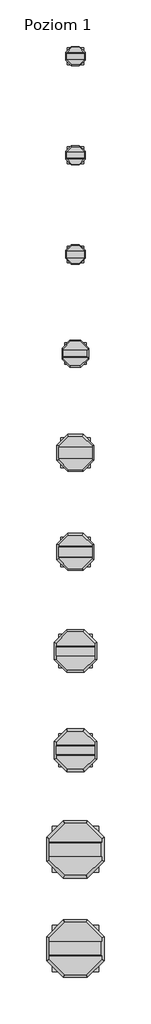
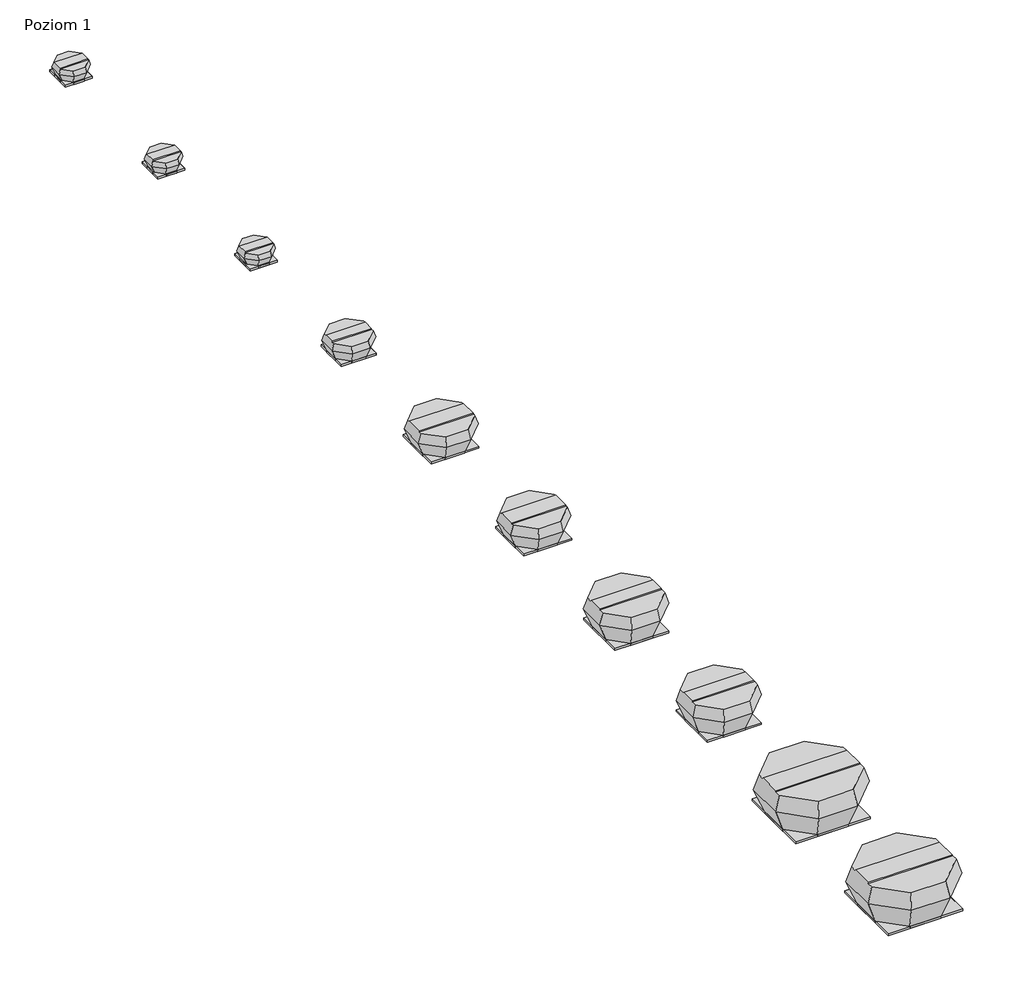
# One storey: 10 duct fittings, 10 unitary equipment elements.
"""IFC4 building model written with IfcOpenShell, lengths in millimetres."""

from ifc_helpers import new_model, si_unit, origin, place, context, project, spatial, transform, mapped, element, save
from components import duct_fitting_180_5dd8c60e, duct_fitting_250_9d40ecca, duct_fitting_400_42e1e227, duct_fitting_560_c8fad201, unitary_equipment_1b8540bf, unitary_equipment_1564ad7d, unitary_equipment_bfcc23b5, unitary_equipment_118d1ad5, unitary_equipment_f340779e, unitary_equipment_924398ab, unitary_equipment_9f07731e, unitary_equipment_d791638a, unitary_equipment_ef6876c5

model = new_model("IFC4")

# Units and contexts
model_context = context("Model", 3, world=origin())
ifc_project = project(units=[si_unit("LENGTHUNIT", "METRE", prefix="MILLI")], contexts=[model_context])

# Site, building, storey
site = spatial("IfcSite", under=ifc_project)
building = spatial("IfcBuilding", under=site)
storey = spatial("IfcBuildingStorey", under=building, Name="Poziom 1", Elevation=0.0)

# Duct fittings
placement = place(None, origin())
duct_fitting_180_shape = duct_fitting_180_5dd8c60e(model_context)
element("IfcDuctFitting", 1, ObjectType="VE-Zagnieżdżone-Akcesorium-ParaForma-Harmann-DAF-Króciec_Przyłączeniowy : 180", at=placement, inside=storey, context=model_context, shape_type="MappedRepresentation", body=[
    mapped(duct_fitting_180_shape, transform((4582.5, 1000.0, 0.0), x_axis=(1.0, 0.0, 0.0), y_axis=(0.0, 1.0, 0.0), z_axis=(0.0, 0.0, 1.0))),
])
element("IfcDuctFitting", 2, ObjectType="VE-Zagnieżdżone-Akcesorium-ParaForma-Harmann-DAF-Króciec_Przyłączeniowy : 180", at=placement, inside=storey, context=model_context, shape_type="MappedRepresentation", body=[
    mapped(duct_fitting_180_shape, transform((4582.5, 3000.0, 0.0), x_axis=(1.0, 0.0, 0.0), y_axis=(0.0, 1.0, 0.0), z_axis=(0.0, 0.0, 1.0))),
])
element("IfcDuctFitting", 3, ObjectType="VE-Zagnieżdżone-Akcesorium-ParaForma-Harmann-DAF-Króciec_Przyłączeniowy : 180", at=placement, inside=storey, context=model_context, shape_type="MappedRepresentation", body=[
    mapped(duct_fitting_180_shape, transform((4582.5, 5000.0, 0.0), x_axis=(1.0, 0.0, 0.0), y_axis=(0.0, 1.0, 0.0), z_axis=(0.0, 0.0, 1.0))),
])
duct_fitting_250_shape = duct_fitting_250_9d40ecca(model_context)
element("IfcDuctFitting", 4, ObjectType="VE-Zagnieżdżone-Akcesorium-ParaForma-Harmann-DAF-Króciec_Przyłączeniowy : 250", at=placement, inside=storey, context=model_context, shape_type="MappedRepresentation", body=[
    mapped(duct_fitting_250_shape, transform((4582.5, -1000.0, 0.0), x_axis=(1.0, 0.0, 0.0), y_axis=(0.0, 1.0, 0.0), z_axis=(0.0, 0.0, 1.0))),
])
duct_fitting_400_shape = duct_fitting_400_42e1e227(model_context)
element("IfcDuctFitting", 5, ObjectType="VE-Zagnieżdżone-Akcesorium-ParaForma-Harmann-DAF-Króciec_Przyłączeniowy : 400", at=placement, inside=storey, context=model_context, shape_type="MappedRepresentation", body=[
    mapped(duct_fitting_400_shape, transform((4582.5, -5000.0, 0.0), x_axis=(1.0, 0.0, 0.0), y_axis=(0.0, 1.0, 0.0), z_axis=(0.0, 0.0, 1.0))),
])
element("IfcDuctFitting", 6, ObjectType="VE-Zagnieżdżone-Akcesorium-ParaForma-Harmann-DAF-Króciec_Przyłączeniowy : 400", at=placement, inside=storey, context=model_context, shape_type="MappedRepresentation", body=[
    mapped(duct_fitting_400_shape, transform((4582.5, -3000.0, 0.0), x_axis=(1.0, 0.0, 0.0), y_axis=(0.0, 1.0, 0.0), z_axis=(0.0, 0.0, 1.0))),
])
element("IfcDuctFitting", 7, ObjectType="VE-Zagnieżdżone-Akcesorium-ParaForma-Harmann-DAF-Króciec_Przyłączeniowy : 400", at=placement, inside=storey, context=model_context, shape_type="MappedRepresentation", body=[
    mapped(duct_fitting_400_shape, transform((4582.5, -9000.0, 0.0), x_axis=(1.0, 0.0, 0.0), y_axis=(0.0, 1.0, 0.0), z_axis=(0.0, 0.0, 1.0))),
])
element("IfcDuctFitting", 8, ObjectType="VE-Zagnieżdżone-Akcesorium-ParaForma-Harmann-DAF-Króciec_Przyłączeniowy : 400", at=placement, inside=storey, context=model_context, shape_type="MappedRepresentation", body=[
    mapped(duct_fitting_400_shape, transform((4582.5, -7000.0, 0.0), x_axis=(1.0, 0.0, 0.0), y_axis=(0.0, 1.0, 0.0), z_axis=(0.0, 0.0, 1.0))),
])
duct_fitting_560_shape = duct_fitting_560_c8fad201(model_context)
element("IfcDuctFitting", 9, ObjectType="VE-Zagnieżdżone-Akcesorium-ParaForma-Harmann-DAF-Króciec_Przyłączeniowy : 560", at=placement, inside=storey, context=model_context, shape_type="MappedRepresentation", body=[
    mapped(duct_fitting_560_shape, transform((4582.5, -13000.0, 0.0), x_axis=(1.0, 0.0, 0.0), y_axis=(0.0, 1.0, 0.0), z_axis=(0.0, 0.0, 1.0))),
])
element("IfcDuctFitting", 10, ObjectType="VE-Zagnieżdżone-Akcesorium-ParaForma-Harmann-DAF-Króciec_Przyłączeniowy : 560", at=placement, inside=storey, context=model_context, shape_type="MappedRepresentation", body=[
    mapped(duct_fitting_560_shape, transform((4582.5, -11000.0, 0.0), x_axis=(1.0, 0.0, 0.0), y_axis=(0.0, 1.0, 0.0), z_axis=(0.0, 0.0, 1.0))),
])

# Unitary equipment
unitary_equipment_shape = unitary_equipment_1b8540bf(model_context)
element("IfcUnitaryEquipment", 11, ObjectType="VE-Wentylator-ParaForma-Harmann-VIVER_EC-Wywiewny : 2-190/600EC", at=placement, inside=storey, context=model_context, shape_type="MappedRepresentation", body=[
    mapped(unitary_equipment_shape, transform((4582.5, 5000.0, 0.0), x_axis=(1.0, 0.0, 0.0), y_axis=(0.0, 1.0, 0.0), z_axis=(0.0, 0.0, 1.0))),
])
unitary_equipment_2_shape = unitary_equipment_1564ad7d(model_context)
element("IfcUnitaryEquipment", 12, ObjectType="VE-Wentylator-ParaForma-Harmann-VIVER_EC-Wywiewny : 2-220/950EC", at=placement, inside=storey, context=model_context, shape_type="MappedRepresentation", body=[
    mapped(unitary_equipment_2_shape, transform((4582.5, 3000.0, 0.0), x_axis=(1.0, 0.0, 0.0), y_axis=(0.0, 1.0, 0.0), z_axis=(0.0, 0.0, 1.0))),
])
unitary_equipment_3_shape = unitary_equipment_bfcc23b5(model_context)
element("IfcUnitaryEquipment", 13, ObjectType="VE-Wentylator-ParaForma-Harmann-VIVER_EC-Wywiewny : 2-250/1200EC", at=placement, inside=storey, context=model_context, shape_type="MappedRepresentation", body=[
    mapped(unitary_equipment_3_shape, transform((4582.5, 1000.0, 0.0), x_axis=(1.0, 0.0, 0.0), y_axis=(0.0, 1.0, 0.0), z_axis=(0.0, 0.0, 1.0))),
])
unitary_equipment_4_shape = unitary_equipment_118d1ad5(model_context)
element("IfcUnitaryEquipment", 14, ObjectType="VE-Wentylator-ParaForma-Harmann-VIVER_EC-Wywiewny : 2-280/1900EC", at=placement, inside=storey, context=model_context, shape_type="MappedRepresentation", body=[
    mapped(unitary_equipment_4_shape, transform((4582.5, -1000.0, 0.0), x_axis=(1.0, 0.0, 0.0), y_axis=(0.0, 1.0, 0.0), z_axis=(0.0, 0.0, 1.0))),
])
unitary_equipment_5_shape = unitary_equipment_f340779e(model_context)
element("IfcUnitaryEquipment", 15, ObjectType="VE-Wentylator-ParaForma-Harmann-VIVER_EC-Wywiewny : 4-355/2700EC", at=placement, inside=storey, context=model_context, shape_type="MappedRepresentation", body=[
    mapped(unitary_equipment_5_shape, transform((4582.5, -3000.0, 0.0), x_axis=(1.0, 0.0, 0.0), y_axis=(0.0, 1.0, 0.0), z_axis=(0.0, 0.0, 1.0))),
])
unitary_equipment_6_shape = unitary_equipment_924398ab(model_context)
element("IfcUnitaryEquipment", 16, ObjectType="VE-Wentylator-ParaForma-Harmann-VIVER_EC-Wywiewny : 4-400/4400EC", at=placement, inside=storey, context=model_context, shape_type="MappedRepresentation", body=[
    mapped(unitary_equipment_6_shape, transform((4582.5, -5000.0, 0.0), x_axis=(1.0, 0.0, 0.0), y_axis=(0.0, 1.0, 0.0), z_axis=(0.0, 0.0, 1.0))),
])
unitary_equipment_7_shape = unitary_equipment_9f07731e(model_context)
element("IfcUnitaryEquipment", 17, ObjectType="VE-Wentylator-ParaForma-Harmann-VIVER_EC-Wywiewny : 4-450/5500EC", at=placement, inside=storey, context=model_context, shape_type="MappedRepresentation", body=[
    mapped(unitary_equipment_7_shape, transform((4582.5, -7000.0, 0.0), x_axis=(1.0, 0.0, 0.0), y_axis=(0.0, 1.0, 0.0), z_axis=(0.0, 0.0, 1.0))),
])
element("IfcUnitaryEquipment", 18, ObjectType="VE-Wentylator-ParaForma-Harmann-VIVER_EC-Wywiewny : 4-500/8000TEC", at=placement, inside=storey, context=model_context, shape_type="MappedRepresentation", body=[
    mapped(unitary_equipment_7_shape, transform((4582.5, -9000.0, 0.0), x_axis=(1.0, 0.0, 0.0), y_axis=(0.0, 1.0, 0.0), z_axis=(0.0, 0.0, 1.0))),
])
unitary_equipment_8_shape = unitary_equipment_d791638a(model_context)
element("IfcUnitaryEquipment", 19, ObjectType="VE-Wentylator-ParaForma-Harmann-VIVER_EC-Wywiewny : 4-560/12000TEC", at=placement, inside=storey, context=model_context, shape_type="MappedRepresentation", body=[
    mapped(unitary_equipment_8_shape, transform((4582.5, -11000.0, 0.0), x_axis=(1.0, 0.0, 0.0), y_axis=(0.0, 1.0, 0.0), z_axis=(0.0, 0.0, 1.0))),
])
unitary_equipment_9_shape = unitary_equipment_ef6876c5(model_context)
element("IfcUnitaryEquipment", 20, ObjectType="VE-Wentylator-ParaForma-Harmann-VIVER_EC-Wywiewny : 4-630/14100TEC", at=placement, inside=storey, context=model_context, shape_type="MappedRepresentation", body=[
    mapped(unitary_equipment_9_shape, transform((4582.5, -13000.0, 0.0), x_axis=(1.0, 0.0, 0.0), y_axis=(0.0, 1.0, 0.0), z_axis=(0.0, 0.0, 1.0))),
])

save(model, "model.ifc")
